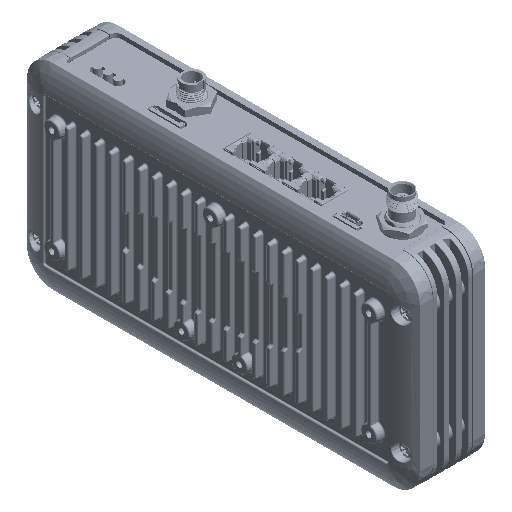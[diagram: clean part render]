
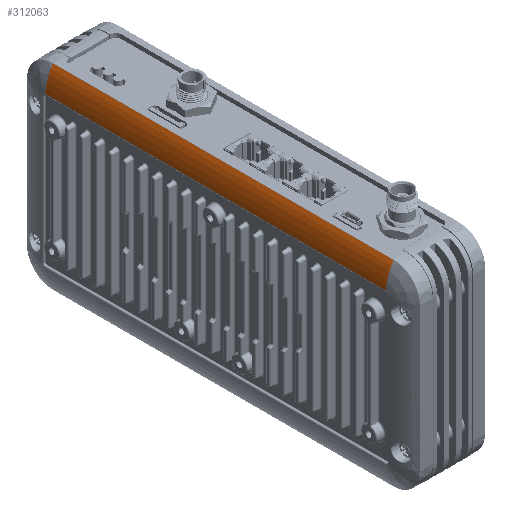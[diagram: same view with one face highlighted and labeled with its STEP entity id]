
A CAD part, isometric view. The second image highlights one B-rep face of the part: STEP entity #312063.
In plain terms, the highlighted free-form (B-spline) face has degree [3, 1] with [4, 2] control points.
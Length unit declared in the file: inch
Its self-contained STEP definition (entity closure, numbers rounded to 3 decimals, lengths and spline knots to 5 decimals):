
#5146 = CARTESIAN_POINT ( 'NONE',  ( 3.25, 0.20266, 1.44201 ) ) ;
#6149 = B_SPLINE_CURVE_WITH_KNOTS ( 'NONE', 3,
 ( #367937, #16240, #221663, #45769 ),
 .UNSPECIFIED., .F., .F.,
 ( 4, 4 ),
 ( 0.08135, 0.83762 ),
 .UNSPECIFIED. ) ;
#11475 = ORIENTED_EDGE ( 'NONE', *, *, #49829, .F. ) ;
#16240 = CARTESIAN_POINT ( 'NONE',  ( 3.25, 0.25012, 1.74452 ) ) ;
#24469 = VERTEX_POINT ( 'NONE', #116291 ) ;
#45191 = CARTESIAN_POINT ( 'NONE',  ( -3.25, 0.20266, 1.44201 ) ) ;
#45769 = CARTESIAN_POINT ( 'NONE',  ( 3.25, 0.20266, 1.44201 ) ) ;
#49829 = EDGE_CURVE ( 'NONE', #250884, #24469, #6149, .T. ) ;
#74992 = B_SPLINE_CURVE_WITH_KNOTS ( 'NONE', 3,
 ( #132515, #336703, #221066, #45191 ),
 .UNSPECIFIED., .F., .F.,
 ( 4, 4 ),
 ( 0.08135, 0.83762 ),
 .UNSPECIFIED. ) ;
#78659 = ORIENTED_EDGE ( 'NONE', *, *, #365055, .T. ) ;
#80219 = EDGE_LOOP ( 'NONE', ( #11475, #150544, #253262, #78659 ) ) ;
#111510 = CARTESIAN_POINT ( 'NONE',  ( -3.25, 0.35047, 1.87129 ) ) ;
#116291 = CARTESIAN_POINT ( 'NONE',  ( 3.25, 0.20266, 1.44201 ) ) ;
#122071 = CARTESIAN_POINT ( 'NONE',  ( -3.25, 0.25012, 1.74452 ) ) ;
#132515 = CARTESIAN_POINT ( 'NONE',  ( -3.25, 0.35047, 1.87129 ) ) ;
#138451 = CARTESIAN_POINT ( 'NONE',  ( 3.25, 0.35047, 1.87129 ) ) ;
#149153 = CARTESIAN_POINT ( 'NONE',  ( 3.25, 0.35047, 1.87129 ) ) ;
#150544 = ORIENTED_EDGE ( 'NONE', *, *, #278143, .T. ) ;
#151679 = CARTESIAN_POINT ( 'NONE',  ( -3.25, 0.21274, 1.53705 ) ) ;
#170915 = CARTESIAN_POINT ( 'NONE',  ( -3.25, 0.20266, 1.44201 ) ) ;
#178123 = B_SPLINE_SURFACE_WITH_KNOTS ( 'NONE', 3, 1, ( 
 ( #268429, #149153 ),
 ( #122071, #327513 ),
 ( #151679, #356994 ),
 ( #181136, #5146 ) ),
 .UNSPECIFIED., .F., .F., .F.,
 ( 4, 4 ),
 ( 2, 2 ),
 ( 0.08135, 0.83762 ),
 ( 0., 1. ),
 .UNSPECIFIED. ) ;
#181136 = CARTESIAN_POINT ( 'NONE',  ( -3.25, 0.20266, 1.44201 ) ) ;
#187196 = DIRECTION ( 'NONE',  ( 1., 0., 0. ) ) ;
#188621 = VERTEX_POINT ( 'NONE', #111510 ) ;
#214106 = CARTESIAN_POINT ( 'NONE',  ( 3.25, 0.35047, 1.87129 ) ) ;
#221066 = CARTESIAN_POINT ( 'NONE',  ( -3.25, 0.21274, 1.53705 ) ) ;
#221663 = CARTESIAN_POINT ( 'NONE',  ( 3.25, 0.21274, 1.53705 ) ) ;
#245299 = VECTOR ( 'NONE', #314343, 39.37008 ) ;
#250884 = VERTEX_POINT ( 'NONE', #214106 ) ;
#253262 = ORIENTED_EDGE ( 'NONE', *, *, #330689, .T. ) ;
#268429 = CARTESIAN_POINT ( 'NONE',  ( -3.25, 0.35047, 1.87129 ) ) ;
#274439 = LINE ( 'NONE', #333581, #352569 ) ;
#278143 = EDGE_CURVE ( 'Edge36', #250884, #188621, #351076, .T. ) ;
#293591 = VERTEX_POINT ( 'NONE', #170915 ) ;
#312063 = ADVANCED_FACE ( 'NONE', ( #350753 ), #178123, .T. ) ;
#314343 = DIRECTION ( 'NONE',  ( -1., 0., 0. ) ) ;
#327513 = CARTESIAN_POINT ( 'NONE',  ( 3.25, 0.25012, 1.74452 ) ) ;
#330689 = EDGE_CURVE ( 'NONE', #188621, #293591, #74992, .T. ) ;
#333581 = CARTESIAN_POINT ( 'NONE',  ( -3.25, 0.20266, 1.44201 ) ) ;
#336703 = CARTESIAN_POINT ( 'NONE',  ( -3.25, 0.25012, 1.74452 ) ) ;
#350753 = FACE_OUTER_BOUND ( 'NONE', #80219, .T. ) ;
#351076 = LINE ( 'NONE', #138451, #245299 ) ;
#352569 = VECTOR ( 'NONE', #187196, 39.37008 ) ;
#356994 = CARTESIAN_POINT ( 'NONE',  ( 3.25, 0.21274, 1.53705 ) ) ;
#365055 = EDGE_CURVE ( 'NONE', #293591, #24469, #274439, .T. ) ;
#367937 = CARTESIAN_POINT ( 'NONE',  ( 3.25, 0.35047, 1.87129 ) ) ;
